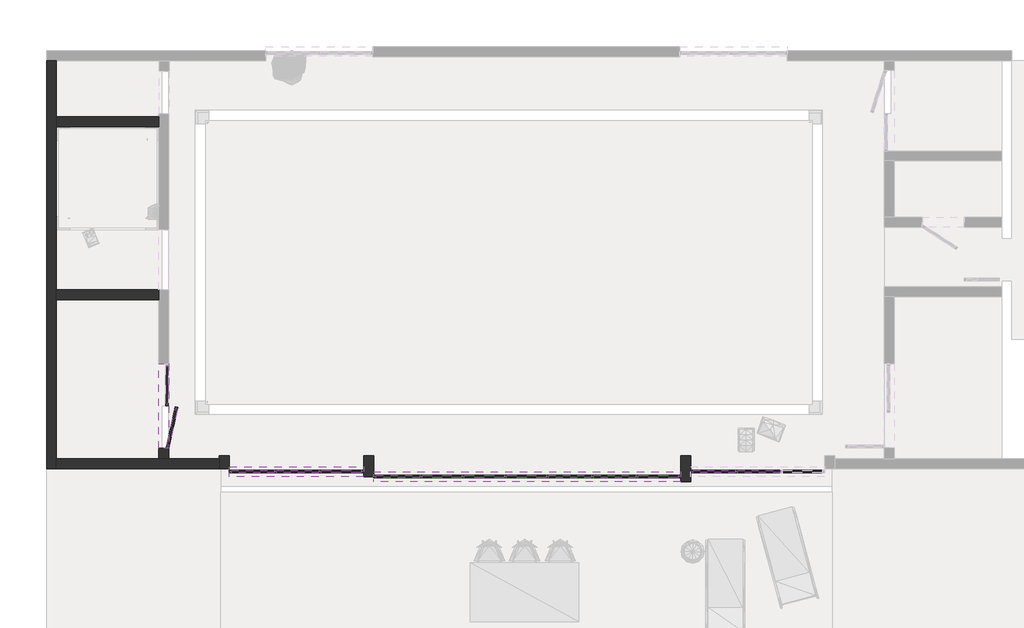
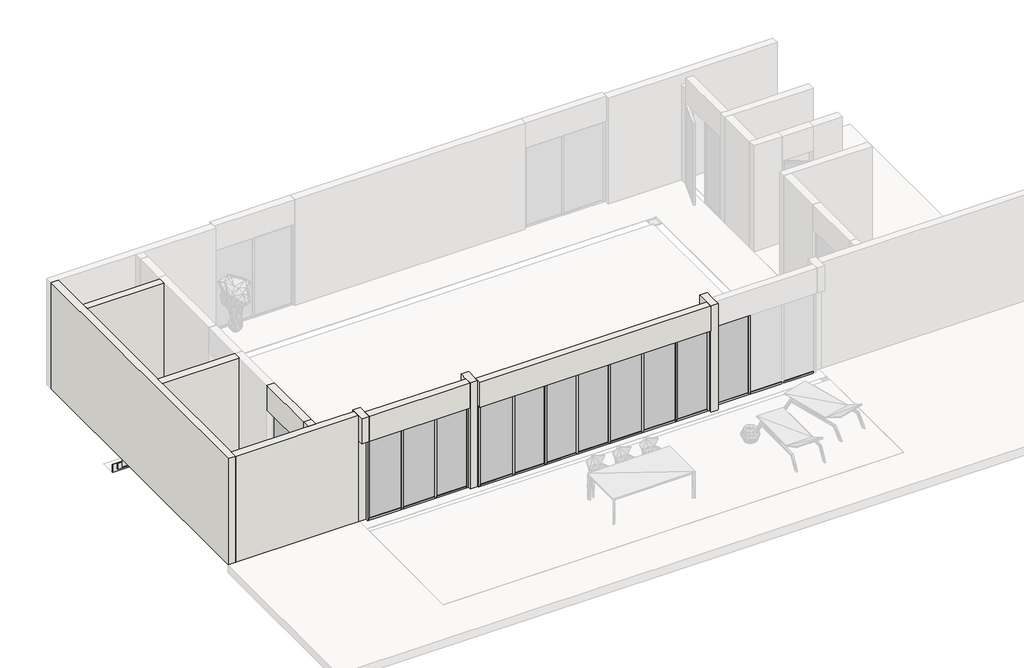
# One storey, part 1 of 3: 45 members, 23 walls, 13 plates.
"""IFC4 building model written with IfcOpenShell, lengths in millimetres."""

from ifc_helpers import new_model, si_unit, frame, origin, origin_with_axes, place, context, project, spatial, polyline, outline, extrude, faceted_brep, transform, mapped, element, save
from components import montante_rectangular_montante_cuadrado_50x50mm_acero_cc8d1400, montante_rectangular_montante_cuadrado_50x50mm_acero_b99420d8, montante_rectangular_montante_cuadrado_50x50mm_acero_83e1ad39, montante_rectangular_montante_cuadrado_50x50mm_acero_31f087f2, montante_rectangular_montante_cuadrado_50x50mm_acero_05cd54b4, montante_rectangular_montante_cuadrado_50x50mm_acero_ca4e556f, montante_rectangular_montante_cuadrado_50x50mm_acero_dcaf8623, montante_rectangular_montante_cuadrado_50x50mm_acero_85ed2a2e, montante_rectangular_montante_cuadrado_50x50mm_acero_ade78676, montante_rectangular_montante_cuadrado_50x50mm_acero_f08a09c5, montante_rectangular_montante_cuadrado_50x50mm_acero_9b62e82a, montante_rectangular_montante_cuadrado_50x50mm_acero_ee5e875f, panel_acristalado_panel_acristalado_1cm_47b5e9e2, panel_acristalado_panel_acristalado_1cm_8548f812, panel_acristalado_panel_acristalado_1cm_a9741e59, panel_acristalado_panel_acristalado_1cm_0ca00538, panel_acristalado_panel_acristalado_1cm_65917553

model = new_model("IFC4")

# Units and contexts
model_context = context("Model", 3, world=origin())
ifc_project = project(units=[si_unit("LENGTHUNIT", "METRE", prefix="MILLI")], contexts=[model_context])

# Site, building, storey
site = spatial("IfcSite", under=ifc_project)
building = spatial("IfcBuilding", under=site)
storey = spatial("IfcBuildingStorey", under=building, Name="1_NPlaya", Elevation=0.0)

# Members
placement = place(None, origin())
montante_rectangular_montante_cuadrado_50x50mm_acero_shape = montante_rectangular_montante_cuadrado_50x50mm_acero_cc8d1400(model_context)
element("IfcMember", 1, ObjectType="Montante rectangular : Montante cuadrado 50x50mm_Acero", at=placement, inside=storey, context=model_context, shape_type="MappedRepresentation", body=[
    mapped(montante_rectangular_montante_cuadrado_50x50mm_acero_shape, transform((467.0093267, 7449.7270241, 2300.0), x_axis=(0.0, 0.0, 1.0), y_axis=(-1.0, 0.0, 0.0), z_axis=(0.0, -1.0, 0.0))),
])
montante_rectangular_montante_cuadrado_50x50mm_acero_2_shape = montante_rectangular_montante_cuadrado_50x50mm_acero_b99420d8(model_context)
element("IfcMember", 2, ObjectType="Montante rectangular : Montante cuadrado 50x50mm_Acero", at=placement, inside=storey, context=model_context, shape_type="MappedRepresentation", body=[
    mapped(montante_rectangular_montante_cuadrado_50x50mm_acero_2_shape, transform((467.0093267, 7399.7270241, 0.0), x_axis=(0.0, -1.0, 0.0), y_axis=(-1.0, 0.0, 0.0), z_axis=(0.0, 0.0, -1.0))),
])
element("IfcMember", 3, ObjectType="Montante rectangular : Montante cuadrado 50x50mm_Acero", at=placement, inside=storey, context=model_context, shape_type="MappedRepresentation", body=[
    mapped(montante_rectangular_montante_cuadrado_50x50mm_acero_2_shape, transform((4444.0093272, 6053.7270206, 0.0), x_axis=(1.0, 0.0, 0.0), y_axis=(0.0, -1.0, 0.0), z_axis=(0.0, 0.0, -1.0))),
])
element("IfcMember", 4, ObjectType="Montante rectangular : Montante cuadrado 50x50mm_Acero", at=placement, inside=storey, context=model_context, shape_type="MappedRepresentation", body=[
    mapped(montante_rectangular_montante_cuadrado_50x50mm_acero_2_shape, transform((10820.5093267, 5953.7270206, 0.0), x_axis=(1.0, 0.0, 0.0), y_axis=(0.0, -1.0, 0.0), z_axis=(0.0, 0.0, -1.0))),
])
element("IfcMember", 5, ObjectType="Montante rectangular : Montante cuadrado 50x50mm_Acero", at=placement, inside=storey, context=model_context, shape_type="MappedRepresentation", body=[
    mapped(montante_rectangular_montante_cuadrado_50x50mm_acero_2_shape, transform((707.9682118, 7368.1978785, 0.0), x_axis=(0.2249510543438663, 0.9743700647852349, 0.0), y_axis=(0.9743700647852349, -0.2249510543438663, 0.0), z_axis=(0.0, 0.0, -1.0))),
])
montante_rectangular_montante_cuadrado_50x50mm_acero_3_shape = montante_rectangular_montante_cuadrado_50x50mm_acero_83e1ad39(model_context)
element("IfcMember", 6, ObjectType="Montante rectangular : Montante cuadrado 50x50mm_Acero", at=placement, inside=storey, context=model_context, shape_type="MappedRepresentation", body=[
    mapped(montante_rectangular_montante_cuadrado_50x50mm_acero_3_shape, transform((1744.0093272, 6053.7270206, 2300.0), x_axis=(-1.0, 0.0, 0.0), y_axis=(0.0, -1.0, 0.0), z_axis=(0.0, 0.0, 1.0))),
])
element("IfcMember", 7, ObjectType="Montante rectangular : Montante cuadrado 50x50mm_Acero", at=placement, inside=storey, context=model_context, shape_type="MappedRepresentation", body=[
    mapped(montante_rectangular_montante_cuadrado_50x50mm_acero_3_shape, transform((4644.0093272, 5953.7270206, 2300.0), x_axis=(-1.0, 0.0, 0.0), y_axis=(0.0, -1.0, 0.0), z_axis=(0.0, 0.0, 1.0))),
])
element("IfcMember", 8, ObjectType="Montante rectangular : Montante cuadrado 50x50mm_Acero", at=placement, inside=storey, context=model_context, shape_type="MappedRepresentation", body=[
    mapped(montante_rectangular_montante_cuadrado_50x50mm_acero_3_shape, transform((11020.5093267, 6053.7270206, 2300.0), x_axis=(-1.0, 0.0, 0.0), y_axis=(0.0, -1.0, 0.0), z_axis=(0.0, 0.0, 1.0))),
])
element("IfcMember", 9, ObjectType="Montante rectangular : Montante cuadrado 50x50mm_Acero", at=placement, inside=storey, context=model_context, shape_type="MappedRepresentation", body=[
    mapped(montante_rectangular_montante_cuadrado_50x50mm_acero_3_shape, transform((519.0093262, 6549.7270241, 2300.0), x_axis=(-0.2249510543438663, -0.9743700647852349, 0.0), y_axis=(0.9743700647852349, -0.2249510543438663, 0.0), z_axis=(0.0, 0.0, 1.0))),
])
montante_rectangular_montante_cuadrado_50x50mm_acero_4_shape = montante_rectangular_montante_cuadrado_50x50mm_acero_31f087f2(model_context)
element("IfcMember", 10, ObjectType="Montante rectangular : Montante cuadrado 50x50mm_Acero", at=placement, inside=storey, context=model_context, shape_type="MappedRepresentation", body=[
    mapped(montante_rectangular_montante_cuadrado_50x50mm_acero_4_shape, transform((1794.0093272, 6053.7270206, 0.0), x_axis=(0.0, 0.0, -1.0), y_axis=(0.0, -1.0, 0.0), z_axis=(-1.0, 0.0, 0.0))),
])
element("IfcMember", 11, ObjectType="Montante rectangular : Montante cuadrado 50x50mm_Acero", at=placement, inside=storey, context=model_context, shape_type="MappedRepresentation", body=[
    mapped(montante_rectangular_montante_cuadrado_50x50mm_acero_4_shape, transform((11070.5093267, 6053.7270206, 0.0), x_axis=(0.0, 0.0, -1.0), y_axis=(0.0, -1.0, 0.0), z_axis=(-1.0, 0.0, 0.0))),
])
element("IfcMember", 12, ObjectType="Montante rectangular : Montante cuadrado 50x50mm_Acero", at=placement, inside=storey, context=model_context, shape_type="MappedRepresentation", body=[
    mapped(montante_rectangular_montante_cuadrado_50x50mm_acero_4_shape, transform((11970.5093267, 6053.7270206, 0.0), x_axis=(0.0, 0.0, -1.0), y_axis=(0.0, -1.0, 0.0), z_axis=(-1.0, 0.0, 0.0))),
])
element("IfcMember", 13, ObjectType="Montante rectangular : Montante cuadrado 50x50mm_Acero", at=placement, inside=storey, context=model_context, shape_type="MappedRepresentation", body=[
    mapped(montante_rectangular_montante_cuadrado_50x50mm_acero_4_shape, transform((2694.0093272, 6053.7270206, 0.0), x_axis=(0.0, 0.0, -1.0), y_axis=(0.0, -1.0, 0.0), z_axis=(-1.0, 0.0, 0.0))),
])
element("IfcMember", 14, ObjectType="Montante rectangular : Montante cuadrado 50x50mm_Acero", at=placement, inside=storey, context=model_context, shape_type="MappedRepresentation", body=[
    mapped(montante_rectangular_montante_cuadrado_50x50mm_acero_4_shape, transform((9070.5093267, 5953.7270206, 0.0), x_axis=(0.0, 0.0, -1.0), y_axis=(0.0, -1.0, 0.0), z_axis=(-1.0, 0.0, 0.0))),
])
element("IfcMember", 15, ObjectType="Montante rectangular : Montante cuadrado 50x50mm_Acero", at=placement, inside=storey, context=model_context, shape_type="MappedRepresentation", body=[
    mapped(montante_rectangular_montante_cuadrado_50x50mm_acero_4_shape, transform((8170.5093267, 5953.7270206, 0.0), x_axis=(0.0, 0.0, -1.0), y_axis=(0.0, -1.0, 0.0), z_axis=(-1.0, 0.0, 0.0))),
])
montante_rectangular_montante_cuadrado_50x50mm_acero_5_shape = montante_rectangular_montante_cuadrado_50x50mm_acero_05cd54b4(model_context)
element("IfcMember", 16, ObjectType="Montante rectangular : Montante cuadrado 50x50mm_Acero", at=placement, inside=storey, context=model_context, shape_type="MappedRepresentation", body=[
    mapped(montante_rectangular_montante_cuadrado_50x50mm_acero_5_shape, transform((4394.0093272, 6053.7270206, 2300.0), x_axis=(0.0, 0.0, 1.0), y_axis=(0.0, -1.0, 0.0), z_axis=(1.0, 0.0, 0.0))),
])
element("IfcMember", 17, ObjectType="Montante rectangular : Montante cuadrado 50x50mm_Acero", at=placement, inside=storey, context=model_context, shape_type="MappedRepresentation", body=[
    mapped(montante_rectangular_montante_cuadrado_50x50mm_acero_5_shape, transform((10770.5093267, 5953.7270206, 2300.0), x_axis=(0.0, 0.0, 1.0), y_axis=(0.0, -1.0, 0.0), z_axis=(1.0, 0.0, 0.0))),
])
element("IfcMember", 18, ObjectType="Montante rectangular : Montante cuadrado 50x50mm_Acero", at=placement, inside=storey, context=model_context, shape_type="MappedRepresentation", body=[
    mapped(montante_rectangular_montante_cuadrado_50x50mm_acero_5_shape, transform((8120.5093267, 5953.7270206, 2300.0), x_axis=(0.0, 0.0, 1.0), y_axis=(0.0, -1.0, 0.0), z_axis=(1.0, 0.0, 0.0))),
])
element("IfcMember", 19, ObjectType="Montante rectangular : Montante cuadrado 50x50mm_Acero", at=placement, inside=storey, context=model_context, shape_type="MappedRepresentation", body=[
    mapped(montante_rectangular_montante_cuadrado_50x50mm_acero_5_shape, transform((7270.5093267, 5953.7270206, 2300.0), x_axis=(0.0, 0.0, 1.0), y_axis=(0.0, -1.0, 0.0), z_axis=(1.0, 0.0, 0.0))),
])
element("IfcMember", 20, ObjectType="Montante rectangular : Montante cuadrado 50x50mm_Acero", at=placement, inside=storey, context=model_context, shape_type="MappedRepresentation", body=[
    mapped(montante_rectangular_montante_cuadrado_50x50mm_acero_5_shape, transform((6420.5093267, 5953.7270206, 2300.0), x_axis=(0.0, 0.0, 1.0), y_axis=(0.0, -1.0, 0.0), z_axis=(1.0, 0.0, 0.0))),
])
montante_rectangular_montante_cuadrado_50x50mm_acero_6_shape = montante_rectangular_montante_cuadrado_50x50mm_acero_ca4e556f(model_context)
element("IfcMember", 21, ObjectType="Montante rectangular : Montante cuadrado 50x50mm_Acero", at=placement, inside=storey, context=model_context, shape_type="MappedRepresentation", body=[
    mapped(montante_rectangular_montante_cuadrado_50x50mm_acero_6_shape, transform((12820.5093267, 6053.7270206, 2300.0), x_axis=(0.0, 0.0, 1.0), y_axis=(0.0, -1.0, 0.0), z_axis=(1.0, 0.0, 0.0))),
])
element("IfcMember", 22, ObjectType="Montante rectangular : Montante cuadrado 50x50mm_Acero", at=placement, inside=storey, context=model_context, shape_type="MappedRepresentation", body=[
    mapped(montante_rectangular_montante_cuadrado_50x50mm_acero_6_shape, transform((11920.5093267, 6053.7270206, 2300.0), x_axis=(0.0, 0.0, 1.0), y_axis=(0.0, -1.0, 0.0), z_axis=(1.0, 0.0, 0.0))),
])
element("IfcMember", 23, ObjectType="Montante rectangular : Montante cuadrado 50x50mm_Acero", at=placement, inside=storey, context=model_context, shape_type="MappedRepresentation", body=[
    mapped(montante_rectangular_montante_cuadrado_50x50mm_acero_6_shape, transform((3544.0093272, 6053.7270206, 2300.0), x_axis=(0.0, 0.0, 1.0), y_axis=(0.0, -1.0, 0.0), z_axis=(1.0, 0.0, 0.0))),
])
element("IfcMember", 24, ObjectType="Montante rectangular : Montante cuadrado 50x50mm_Acero", at=placement, inside=storey, context=model_context, shape_type="MappedRepresentation", body=[
    mapped(montante_rectangular_montante_cuadrado_50x50mm_acero_6_shape, transform((2644.0093272, 6053.7270206, 2300.0), x_axis=(0.0, 0.0, 1.0), y_axis=(0.0, -1.0, 0.0), z_axis=(1.0, 0.0, 0.0))),
])
element("IfcMember", 25, ObjectType="Montante rectangular : Montante cuadrado 50x50mm_Acero", at=placement, inside=storey, context=model_context, shape_type="MappedRepresentation", body=[
    mapped(montante_rectangular_montante_cuadrado_50x50mm_acero_6_shape, transform((9920.5093267, 5953.7270206, 2300.0), x_axis=(0.0, 0.0, 1.0), y_axis=(0.0, -1.0, 0.0), z_axis=(1.0, 0.0, 0.0))),
])
element("IfcMember", 26, ObjectType="Montante rectangular : Montante cuadrado 50x50mm_Acero", at=placement, inside=storey, context=model_context, shape_type="MappedRepresentation", body=[
    mapped(montante_rectangular_montante_cuadrado_50x50mm_acero_6_shape, transform((9020.5093267, 5953.7270206, 2300.0), x_axis=(0.0, 0.0, 1.0), y_axis=(0.0, -1.0, 0.0), z_axis=(1.0, 0.0, 0.0))),
])
montante_rectangular_montante_cuadrado_50x50mm_acero_7_shape = montante_rectangular_montante_cuadrado_50x50mm_acero_dcaf8623(model_context)
element("IfcMember", 27, ObjectType="Montante rectangular : Montante cuadrado 50x50mm_Acero", at=placement, inside=storey, context=model_context, shape_type="MappedRepresentation", body=[
    mapped(montante_rectangular_montante_cuadrado_50x50mm_acero_7_shape, transform((12870.5093267, 6053.7270206, 0.0), x_axis=(0.0, 0.0, -1.0), y_axis=(0.0, -1.0, 0.0), z_axis=(-1.0, 0.0, 0.0))),
])
element("IfcMember", 28, ObjectType="Montante rectangular : Montante cuadrado 50x50mm_Acero", at=placement, inside=storey, context=model_context, shape_type="MappedRepresentation", body=[
    mapped(montante_rectangular_montante_cuadrado_50x50mm_acero_7_shape, transform((3594.0093272, 6053.7270206, 0.0), x_axis=(0.0, 0.0, -1.0), y_axis=(0.0, -1.0, 0.0), z_axis=(-1.0, 0.0, 0.0))),
])
element("IfcMember", 29, ObjectType="Montante rectangular : Montante cuadrado 50x50mm_Acero", at=placement, inside=storey, context=model_context, shape_type="MappedRepresentation", body=[
    mapped(montante_rectangular_montante_cuadrado_50x50mm_acero_7_shape, transform((9970.5093267, 5953.7270206, 0.0), x_axis=(0.0, 0.0, -1.0), y_axis=(0.0, -1.0, 0.0), z_axis=(-1.0, 0.0, 0.0))),
])
element("IfcMember", 30, ObjectType="Montante rectangular : Montante cuadrado 50x50mm_Acero", at=placement, inside=storey, context=model_context, shape_type="MappedRepresentation", body=[
    mapped(montante_rectangular_montante_cuadrado_50x50mm_acero_7_shape, transform((7320.5093267, 5953.7270206, 0.0), x_axis=(0.0, 0.0, -1.0), y_axis=(0.0, -1.0, 0.0), z_axis=(-1.0, 0.0, 0.0))),
])
element("IfcMember", 31, ObjectType="Montante rectangular : Montante cuadrado 50x50mm_Acero", at=placement, inside=storey, context=model_context, shape_type="MappedRepresentation", body=[
    mapped(montante_rectangular_montante_cuadrado_50x50mm_acero_7_shape, transform((6470.5093267, 5953.7270206, 0.0), x_axis=(0.0, 0.0, -1.0), y_axis=(0.0, -1.0, 0.0), z_axis=(-1.0, 0.0, 0.0))),
])
element("IfcMember", 32, ObjectType="Montante rectangular : Montante cuadrado 50x50mm_Acero", at=placement, inside=storey, context=model_context, shape_type="MappedRepresentation", body=[
    mapped(montante_rectangular_montante_cuadrado_50x50mm_acero_7_shape, transform((5620.5093267, 5953.7270206, 0.0), x_axis=(0.0, 0.0, -1.0), y_axis=(0.0, -1.0, 0.0), z_axis=(-1.0, 0.0, 0.0))),
])
montante_rectangular_montante_cuadrado_50x50mm_acero_8_shape = montante_rectangular_montante_cuadrado_50x50mm_acero_85ed2a2e(model_context)
element("IfcMember", 33, ObjectType="Montante rectangular : Montante cuadrado 50x50mm_Acero", at=placement, inside=storey, context=model_context, shape_type="MappedRepresentation", body=[
    mapped(montante_rectangular_montante_cuadrado_50x50mm_acero_8_shape, transform((4694.0093272, 5953.7270206, 0.0), x_axis=(0.0, 0.0, -1.0), y_axis=(0.0, -1.0, 0.0), z_axis=(-1.0, 0.0, 0.0))),
])
montante_rectangular_montante_cuadrado_50x50mm_acero_9_shape = montante_rectangular_montante_cuadrado_50x50mm_acero_ade78676(model_context)
element("IfcMember", 34, ObjectType="Montante rectangular : Montante cuadrado 50x50mm_Acero", at=placement, inside=storey, context=model_context, shape_type="MappedRepresentation", body=[
    mapped(montante_rectangular_montante_cuadrado_50x50mm_acero_9_shape, transform((5570.5093267, 5953.7270206, 2300.0), x_axis=(0.0, 0.0, 1.0), y_axis=(0.0, -1.0, 0.0), z_axis=(1.0, 0.0, 0.0))),
])
montante_rectangular_montante_cuadrado_50x50mm_acero_10_shape = montante_rectangular_montante_cuadrado_50x50mm_acero_f08a09c5(model_context)
element("IfcMember", 35, ObjectType="Montante rectangular : Montante cuadrado 50x50mm_Acero", at=placement, inside=storey, context=model_context, shape_type="MappedRepresentation", body=[
    mapped(montante_rectangular_montante_cuadrado_50x50mm_acero_10_shape, transform((696.7206591, 7319.4793753, 2300.0), x_axis=(0.0, 0.0, 1.0), y_axis=(0.974370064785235, -0.22495105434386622, 0.0), z_axis=(0.22495105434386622, 0.974370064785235, 0.0))),
])
montante_rectangular_montante_cuadrado_50x50mm_acero_11_shape = montante_rectangular_montante_cuadrado_50x50mm_acero_9b62e82a(model_context)
element("IfcMember", 36, ObjectType="Montante rectangular : Montante cuadrado 50x50mm_Acero", at=placement, inside=storey, context=model_context, shape_type="MappedRepresentation", body=[
    mapped(montante_rectangular_montante_cuadrado_50x50mm_acero_11_shape, transform((530.2568789, 6598.4455273, 0.0), x_axis=(0.0, 0.0, -1.0), y_axis=(0.974370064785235, -0.22495105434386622, 0.0), z_axis=(-0.22495105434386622, -0.974370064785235, 0.0))),
])
montante_rectangular_montante_cuadrado_50x50mm_acero_12_shape = montante_rectangular_montante_cuadrado_50x50mm_acero_ee5e875f(model_context)
element("IfcMember", 37, ObjectType="Montante rectangular : Montante cuadrado 50x50mm_Acero", at=placement, inside=storey, context=model_context, shape_type="MappedRepresentation", body=[
    mapped(montante_rectangular_montante_cuadrado_50x50mm_acero_12_shape, transform((11920.5093267, 6053.7270206, 0.0), x_axis=(1.0, 0.0, 0.0), y_axis=(0.0, -1.0, 0.0), z_axis=(0.0, 0.0, -1.0))),
])
element("IfcMember", 38, ObjectType="Montante rectangular : Montante cuadrado 50x50mm_Acero", at=placement, inside=storey, context=model_context, shape_type="MappedRepresentation", body=[
    mapped(montante_rectangular_montante_cuadrado_50x50mm_acero_12_shape, transform((9920.5093267, 5953.7270206, 0.0), x_axis=(1.0, 0.0, 0.0), y_axis=(0.0, -1.0, 0.0), z_axis=(0.0, 0.0, -1.0))),
])
element("IfcMember", 39, ObjectType="Montante rectangular : Montante cuadrado 50x50mm_Acero", at=placement, inside=storey, context=model_context, shape_type="MappedRepresentation", body=[
    mapped(montante_rectangular_montante_cuadrado_50x50mm_acero_12_shape, transform((9020.5093267, 5953.7270206, 0.0), x_axis=(1.0, 0.0, 0.0), y_axis=(0.0, -1.0, 0.0), z_axis=(0.0, 0.0, -1.0))),
])
element("IfcMember", 40, ObjectType="Montante rectangular : Montante cuadrado 50x50mm_Acero", at=placement, inside=storey, context=model_context, shape_type="MappedRepresentation", body=[
    mapped(montante_rectangular_montante_cuadrado_50x50mm_acero_12_shape, transform((8120.5093267, 5953.7270206, 0.0), x_axis=(1.0, 0.0, 0.0), y_axis=(0.0, -1.0, 0.0), z_axis=(0.0, 0.0, -1.0))),
])
element("IfcMember", 41, ObjectType="Montante rectangular : Montante cuadrado 50x50mm_Acero", at=placement, inside=storey, context=model_context, shape_type="MappedRepresentation", body=[
    mapped(montante_rectangular_montante_cuadrado_50x50mm_acero_12_shape, transform((7270.5093267, 5953.7270206, 0.0), x_axis=(1.0, 0.0, 0.0), y_axis=(0.0, -1.0, 0.0), z_axis=(0.0, 0.0, -1.0))),
])
element("IfcMember", 42, ObjectType="Montante rectangular : Montante cuadrado 50x50mm_Acero", at=placement, inside=storey, context=model_context, shape_type="MappedRepresentation", body=[
    mapped(montante_rectangular_montante_cuadrado_50x50mm_acero_12_shape, transform((6420.5093267, 5953.7270206, 0.0), x_axis=(1.0, 0.0, 0.0), y_axis=(0.0, -1.0, 0.0), z_axis=(0.0, 0.0, -1.0))),
])
element("IfcMember", 43, ObjectType="Montante rectangular : Montante cuadrado 50x50mm_Acero", at=placement, inside=storey, context=model_context, shape_type="MappedRepresentation", body=[
    mapped(montante_rectangular_montante_cuadrado_50x50mm_acero_12_shape, transform((5570.5093267, 5953.7270206, 0.0), x_axis=(1.0, 0.0, 0.0), y_axis=(0.0, -1.0, 0.0), z_axis=(0.0, 0.0, -1.0))),
])
element("IfcMember", 44, ObjectType="Montante rectangular : Montante cuadrado 50x50mm_Acero", at=placement, inside=storey, context=model_context, shape_type="MappedRepresentation", body=[
    mapped(montante_rectangular_montante_cuadrado_50x50mm_acero_12_shape, transform((3544.0093272, 6053.7270206, 0.0), x_axis=(1.0, 0.0, 0.0), y_axis=(0.0, -1.0, 0.0), z_axis=(0.0, 0.0, -1.0))),
])
element("IfcMember", 45, ObjectType="Montante rectangular : Montante cuadrado 50x50mm_Acero", at=placement, inside=storey, context=model_context, shape_type="MappedRepresentation", body=[
    mapped(montante_rectangular_montante_cuadrado_50x50mm_acero_12_shape, transform((2644.0093272, 6053.7270206, 0.0), x_axis=(1.0, 0.0, 0.0), y_axis=(0.0, -1.0, 0.0), z_axis=(0.0, 0.0, -1.0))),
])

# Plates
panel_acristalado_panel_acristalado_1cm_shape = panel_acristalado_panel_acristalado_1cm_47b5e9e2(model_context)
element("IfcPlate", 46, ObjectType="Panel acristalado : Panel acristalado 1cm", at=placement, inside=storey, context=model_context, shape_type="MappedRepresentation", body=[
    mapped(panel_acristalado_panel_acristalado_1cm_shape, transform((467.0093267, 7824.7270223, 50.0), x_axis=(0.0, -1.0, 0.0), y_axis=(1.0, 0.0, 0.0), z_axis=(0.0, 0.0, 1.0))),
])
panel_acristalado_panel_acristalado_1cm_2_shape = panel_acristalado_panel_acristalado_1cm_8548f812(model_context)
element("IfcPlate", 47, ObjectType="Panel acristalado : Panel acristalado 1cm", at=placement, inside=storey, context=model_context, shape_type="MappedRepresentation", body=[
    mapped(panel_acristalado_panel_acristalado_1cm_2_shape, transform((2219.0093272, 6053.7270206, 50.0), x_axis=(1.0, 0.0, 0.0), y_axis=(0.0, 1.0, 0.0), z_axis=(0.0, 0.0, 1.0))),
])
element("IfcPlate", 48, ObjectType="Panel acristalado : Panel acristalado 1cm", at=placement, inside=storey, context=model_context, shape_type="MappedRepresentation", body=[
    mapped(panel_acristalado_panel_acristalado_1cm_2_shape, transform((11495.5093267, 6053.7270206, 50.0), x_axis=(1.0, 0.0, 0.0), y_axis=(0.0, 1.0, 0.0), z_axis=(0.0, 0.0, 1.0))),
])
element("IfcPlate", 49, ObjectType="Panel acristalado : Panel acristalado 1cm", at=placement, inside=storey, context=model_context, shape_type="MappedRepresentation", body=[
    mapped(panel_acristalado_panel_acristalado_1cm_2_shape, transform((3119.0093272, 6053.7270206, 50.0), x_axis=(1.0, 0.0, 0.0), y_axis=(0.0, 1.0, 0.0), z_axis=(0.0, 0.0, 1.0))),
])
element("IfcPlate", 50, ObjectType="Panel acristalado : Panel acristalado 1cm", at=placement, inside=storey, context=model_context, shape_type="MappedRepresentation", body=[
    mapped(panel_acristalado_panel_acristalado_1cm_2_shape, transform((9495.5093267, 5953.7270206, 50.0), x_axis=(1.0, 0.0, 0.0), y_axis=(0.0, 1.0, 0.0), z_axis=(0.0, 0.0, 1.0))),
])
element("IfcPlate", 51, ObjectType="Panel acristalado : Panel acristalado 1cm", at=placement, inside=storey, context=model_context, shape_type="MappedRepresentation", body=[
    mapped(panel_acristalado_panel_acristalado_1cm_2_shape, transform((8595.5093267, 5953.7270206, 50.0), x_axis=(1.0, 0.0, 0.0), y_axis=(0.0, 1.0, 0.0), z_axis=(0.0, 0.0, 1.0))),
])
panel_acristalado_panel_acristalado_1cm_3_shape = panel_acristalado_panel_acristalado_1cm_a9741e59(model_context)
element("IfcPlate", 52, ObjectType="Panel acristalado : Panel acristalado 1cm", at=placement, inside=storey, context=model_context, shape_type="MappedRepresentation", body=[
    mapped(panel_acristalado_panel_acristalado_1cm_3_shape, transform((5132.2593269, 5953.7270206, 50.0), x_axis=(1.0, 0.0, 0.0), y_axis=(0.0, 1.0, 0.0), z_axis=(0.0, 0.0, 1.0))),
])
panel_acristalado_panel_acristalado_1cm_4_shape = panel_acristalado_panel_acristalado_1cm_0ca00538(model_context)
element("IfcPlate", 53, ObjectType="Panel acristalado : Panel acristalado 1cm", at=placement, inside=storey, context=model_context, shape_type="MappedRepresentation", body=[
    mapped(panel_acristalado_panel_acristalado_1cm_4_shape, transform((3994.0093272, 6053.7270206, 50.0), x_axis=(1.0, 0.0, 0.0), y_axis=(0.0, 1.0, 0.0), z_axis=(0.0, 0.0, 1.0))),
])
element("IfcPlate", 54, ObjectType="Panel acristalado : Panel acristalado 1cm", at=placement, inside=storey, context=model_context, shape_type="MappedRepresentation", body=[
    mapped(panel_acristalado_panel_acristalado_1cm_4_shape, transform((10370.5093267, 5953.7270206, 50.0), x_axis=(1.0, 0.0, 0.0), y_axis=(0.0, 1.0, 0.0), z_axis=(0.0, 0.0, 1.0))),
])
element("IfcPlate", 55, ObjectType="Panel acristalado : Panel acristalado 1cm", at=placement, inside=storey, context=model_context, shape_type="MappedRepresentation", body=[
    mapped(panel_acristalado_panel_acristalado_1cm_4_shape, transform((7720.5093267, 5953.7270206, 50.0), x_axis=(1.0, 0.0, 0.0), y_axis=(0.0, 1.0, 0.0), z_axis=(0.0, 0.0, 1.0))),
])
element("IfcPlate", 56, ObjectType="Panel acristalado : Panel acristalado 1cm", at=placement, inside=storey, context=model_context, shape_type="MappedRepresentation", body=[
    mapped(panel_acristalado_panel_acristalado_1cm_4_shape, transform((6870.5093267, 5953.7270206, 50.0), x_axis=(1.0, 0.0, 0.0), y_axis=(0.0, 1.0, 0.0), z_axis=(0.0, 0.0, 1.0))),
])
element("IfcPlate", 57, ObjectType="Panel acristalado : Panel acristalado 1cm", at=placement, inside=storey, context=model_context, shape_type="MappedRepresentation", body=[
    mapped(panel_acristalado_panel_acristalado_1cm_4_shape, transform((6020.5093267, 5953.7270206, 50.0), x_axis=(1.0, 0.0, 0.0), y_axis=(0.0, 1.0, 0.0), z_axis=(0.0, 0.0, 1.0))),
])
panel_acristalado_panel_acristalado_1cm_5_shape = panel_acristalado_panel_acristalado_1cm_65917553(model_context)
element("IfcPlate", 58, ObjectType="Panel acristalado : Panel acristalado 1cm", at=placement, inside=storey, context=model_context, shape_type="MappedRepresentation", body=[
    mapped(panel_acristalado_panel_acristalado_1cm_5_shape, transform((613.488769, 6958.9624513, 50.0), x_axis=(0.2249510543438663, 0.9743700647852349, 0.0), y_axis=(-0.9743700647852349, 0.2249510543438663, 0.0), z_axis=(0.0, 0.0, 1.0))),
])

# Walls
element("IfcWall", 59, ObjectType="Pieza 316_Patrón 1/3_Tresor_Java_Anti-Slip", at=placement, inside=storey, context=model_context, shape_type="Brep", body=[
    faceted_brep([(6279.5093267, 7513.7270206, -873.9413919), (6279.5093267, 8424.7270206, -873.9413919), (6279.5093267, 8433.7270206, -873.9413919), (6279.5093267, 8433.7270206, -842.4462632), (6279.5093267, 8424.7270206, -842.4462632), (6279.5093267, 8393.6534231, -842.4462632), (6279.5093267, 8393.6534231, -685.9413919), (6279.5093267, 7513.7270206, -685.9413919), (6270.5093267, 7513.7270206, -873.9413919), (6270.5093267, 7513.7270206, -685.9413919), (6270.5093267, 8393.6534231, -685.9413919), (6270.5093267, 8393.6534231, -842.4462632), (6270.5093267, 8433.7270206, -842.4462632), (6270.5093267, 8433.7270206, -873.9413919)], [[[0, 1, 2, 3, 4, 5, 6, 7]], [[8, 9, 10, 11, 12, 13]], [[3, 2, 13, 12]], [[0, 7, 9, 8]], [[2, 1, 0, 8, 13]], [[7, 6, 10, 9]], [[5, 4, 3, 12, 11]], [[6, 5, 11, 10]]]),
])
element("IfcWall", 60, ObjectType="Pieza 316_Patrón 1/3_Tresor_Java_Anti-Slip", at=placement, inside=storey, context=model_context, shape_type="SweptSolid", body=[
    extrude(outline(polyline([(8424.7270206, -873.9413919), (7513.7270206, -873.9413919), (7513.7270206, -685.9413919), (8393.7186841, -685.9413919), (8393.7186841, -841.1962632), (8424.7270206, -841.1962632), (8424.7270206, -873.9413919)])), frame((8461.5093267, 0.0, 0.0), z_axis=(1.0, 0.0, 0.0), x_axis=(0.0, 1.0, 0.0)), (0.0, 0.0, 1.0), 9.0),
])
element("IfcWall", 61, ObjectType="Pieza 316_Patrón 1/3_Tresor_Java_Anti-Slip", at=placement, inside=storey, context=model_context, shape_type="Brep", body=[
    faceted_brep([(6579.5093267, 7513.7270206, -648.9413919), (6579.5093267, 8124.7270206, -648.9413919), (6579.5093267, 8133.7270206, -648.9413919), (6579.5093267, 8133.7270206, -617.4462632), (6579.5093267, 8124.7270206, -617.4462632), (6579.5093267, 8093.6534231, -617.4462632), (6579.5093267, 8093.6534231, -461.9413919), (6579.5093267, 7513.7270206, -461.9413919), (6570.5093267, 7513.7270206, -648.9413919), (6570.5093267, 7513.7270206, -461.9413919), (6570.5093267, 8093.6534231, -461.9413919), (6570.5093267, 8093.6534231, -617.4462632), (6570.5093267, 8133.7270206, -617.4462632), (6570.5093267, 8133.7270206, -648.9413919)], [[[0, 1, 2, 3, 4, 5, 6, 7]], [[8, 9, 10, 11, 12, 13]], [[3, 2, 13, 12]], [[0, 7, 9, 8]], [[2, 1, 0, 8, 13]], [[7, 6, 10, 9]], [[5, 4, 3, 12, 11]], [[6, 5, 11, 10]]]),
])
element("IfcWall", 62, ObjectType="Pieza 316_Patrón 1/3_Tresor_Java_Anti-Slip", at=placement, inside=storey, context=model_context, shape_type="SweptSolid", body=[
    extrude(outline(polyline([(8124.7270206, -648.9413919), (7513.7270206, -648.9413919), (7513.7270206, -460.9413919), (8094.3414024, -460.9413919), (8094.3414024, -616.1962632), (8124.7270206, -616.1962632), (8124.7270206, -648.9413919)])), frame((8161.5093267, 0.0, 0.0), z_axis=(1.0, 0.0, 0.0), x_axis=(0.0, 1.0, 0.0)), (0.0, 0.0, 1.0), 9.0),
])
element("IfcWall", 63, ObjectType="Pieza 316_Patrón 1/3_Tresor_Java_Anti-Slip", at=placement, inside=storey, context=model_context, shape_type="Brep", body=[
    faceted_brep([(6879.5093267, 7513.7270206, -424.45068), (6879.5093267, 7830.7270206, -424.45068), (6879.5093267, 7830.7270206, -423.9413919), (6879.5093267, 7830.7270206, -394.9462632), (6879.5093267, 7821.7270206, -394.9462632), (6879.5093267, 7790.6534231, -394.9462632), (6879.5093267, 7790.6534231, -236.4778222), (6879.5093267, 7513.7270206, -236.4778222), (6879.5093267, 7513.7270206, -313.9413919), (6870.5093267, 7513.7270206, -424.45068), (6870.5093267, 7513.7270206, -236.4778222), (6870.5093267, 7790.6534231, -236.4778222), (6870.5093267, 7790.6534231, -394.9462632), (6870.5093267, 7830.7270206, -394.9462632), (6870.5093267, 7830.7270206, -424.45068)], [[[0, 1, 2, 3, 4, 5, 6, 7, 8]], [[9, 10, 11, 12, 13, 14]], [[3, 2, 1, 14, 13]], [[0, 8, 7, 10, 9]], [[1, 0, 9, 14]], [[7, 6, 11, 10]], [[5, 4, 3, 13, 12]], [[6, 5, 12, 11]]]),
])
element("IfcWall", 64, ObjectType="Pieza 316_Patrón 1/3_Tresor_Java_Anti-Slip", at=placement, inside=storey, context=model_context, shape_type="Brep", body=[
    faceted_brep([(6879.5093267, 7821.7270206, -423.9413919), (7861.5093267, 7821.7270206, -423.9413919), (7870.5093267, 7821.7270206, -423.9413919), (7870.5093267, 7821.7270206, -393.6962632), (7861.5093267, 7821.7270206, -393.6962632), (7830.4982291, 7821.7270206, -393.6962632), (7830.4982291, 7821.7270206, -236.9413919), (6910.5825295, 7821.7270206, -236.9413919), (6910.5825295, 7821.7270206, -394.9462632), (6879.5093267, 7821.7270206, -394.9462632), (6879.5093267, 7830.7270206, -423.9413919), (6879.5093267, 7830.7270206, -394.9462632), (6910.5825295, 7830.7270206, -394.9462632), (6910.5825295, 7830.7270206, -236.9413919), (7830.4982291, 7830.7270206, -236.9413919), (7830.4982291, 7830.7270206, -393.6962632), (7870.5093267, 7830.7270206, -393.6962632), (7870.5093267, 7830.7270206, -423.9413919)], [[[0, 1, 2, 3, 4, 5, 6, 7, 8, 9]], [[10, 11, 12, 13, 14, 15, 16, 17]], [[0, 9, 11, 10]], [[3, 2, 17, 16]], [[2, 1, 0, 10, 17]], [[7, 6, 14, 13]], [[5, 4, 3, 16, 15]], [[6, 5, 15, 14]], [[8, 7, 13, 12]], [[9, 8, 12, 11]]]),
])
element("IfcWall", 65, ObjectType="Pieza 316_Patrón 1/3_Tresor_Java_Anti-Slip", at=placement, inside=storey, context=model_context, shape_type="Brep", body=[
    faceted_brep([(7861.5093267, 7821.7270206, -423.9413919), (7861.5093267, 7513.7270206, -423.9413919), (7861.5093267, 7513.7270206, -309.0), (7861.5093267, 7513.7270206, -236.9413919), (7861.5093267, 7790.7164024, -236.9413919), (7861.5093267, 7790.7164024, -393.6962632), (7861.5093267, 7821.7270206, -393.6962632), (7870.5093267, 7821.7270206, -423.9413919), (7870.5093267, 7821.7270206, -393.6962632), (7870.5093267, 7790.7164024, -393.6962632), (7870.5093267, 7790.7164024, -236.9413919), (7870.5093267, 7513.7270206, -236.9413919), (7870.5093267, 7513.7270206, -423.9413919)], [[[0, 1, 2, 3, 4, 5, 6]], [[7, 8, 9, 10, 11, 12]], [[0, 6, 8, 7]], [[3, 2, 1, 12, 11]], [[1, 0, 7, 12]], [[4, 3, 11, 10]], [[5, 4, 10, 9]], [[6, 5, 9, 8]]]),
])
element("IfcWall", 66, ObjectType="GENÉRICO_MURO BASE 20 cm", at=placement, inside=storey, context=model_context, shape_type="Brep", body=[
    faceted_brep([(-1934.4906752, 14343.7270206, 0.0), (-1934.4906752, 6133.7270206, 0.0), (-1934.4906752, 6133.7270206, 3000.0), (-1934.4906752, 14343.7270206, 3000.0), (-1734.4906752, 14343.7270206, 0.0), (-1734.4906752, 14343.7270206, 3000.0), (-1734.4906752, 13212.2270206, 3000.0), (-1734.4906752, 13012.2270206, 3000.0), (-1734.4906752, 9735.7270206, 3000.0), (-1734.4906752, 9535.7270206, 3000.0), (-1734.4906752, 6333.7270206, 3000.0), (-1734.4906752, 6133.7270206, 3000.0), (-1734.4906752, 6133.7270206, 0.0), (-1734.4906752, 6333.7270206, 0.0), (-1734.4906752, 9535.7270206, 0.0), (-1734.4906752, 9735.7270206, 0.0), (-1734.4906752, 13012.2270206, 0.0), (-1734.4906752, 13212.2270206, 0.0)], [[[0, 1, 2, 3]], [[4, 5, 6, 7, 8, 9, 10, 11, 12, 13, 14, 15, 16, 17]], [[1, 0, 4, 17, 16, 15, 14, 13, 12]], [[3, 2, 11, 10, 9, 8, 7, 6, 5]], [[0, 3, 5, 4]], [[2, 1, 12, 11]]]),
])
element("IfcWall", 67, ObjectType="GENÉRICO_MURO BASE 20 cm", at=placement, inside=storey, context=model_context, shape_type="Brep", body=[
    faceted_brep([(-1734.4906752, 6133.7270206, 0.0), (1544.0093272, 6133.7270206, 0.0), (1544.0093272, 6133.7270206, 2300.0), (1544.0093272, 6133.7270206, 3000.0), (-1734.4906752, 6133.7270206, 3000.0), (-1734.4906752, 6333.7270206, 0.0), (-1734.4906752, 6333.7270206, 3000.0), (320.075871, 6333.7270206, 3000.0), (520.075871, 6333.7270206, 3000.0), (1544.0093272, 6333.7270206, 3000.0), (1544.0093272, 6333.7270206, 0.0), (520.075871, 6333.7270206, 0.0), (320.075871, 6333.7270206, 0.0)], [[[0, 1, 2, 3, 4]], [[5, 6, 7, 8, 9, 10, 11, 12]], [[1, 0, 5, 12, 11, 10]], [[4, 3, 9, 8, 7, 6]], [[0, 4, 6, 5]], [[3, 2, 1, 10, 9]]]),
])
element("IfcWall", 68, ObjectType="GENÉRICO_MURO BASE 20 cm", at=placement, inside=storey, context=model_context, shape_type="SweptSolid", body=[
    extrude(outline(polyline([(-1734.4906752, 9735.7270206), (323.5093229, 9735.7270206), (323.5093229, 9535.7270206), (-1734.4906752, 9535.7270206), (-1734.4906752, 9735.7270206)])), origin_with_axes(), (0.0, 0.0, 1.0), 3000.0),
])
element("IfcWall", 69, ObjectType="GENÉRICO_MURO BASE 20 cm", at=placement, inside=storey, context=model_context, shape_type="SweptSolid", body=[
    extrude(outline(polyline([(-1734.4906752, 13212.2270206), (323.5093229, 13212.2270206), (323.5093229, 13012.2270206), (-1734.4906752, 13012.2270206), (-1734.4906752, 13212.2270206)])), origin_with_axes(), (0.0, 0.0, 1.0), 3000.0),
])
element("IfcWall", 70, ObjectType="GENÉRICO_MURO BASE 20 cm", at=placement, inside=storey, context=model_context, shape_type="Brep", body=[
    faceted_brep([(320.075871, 6549.7270241, 0.0), (320.075871, 6333.7270206, 0.0), (320.075871, 6333.7270206, 3000.0), (320.075871, 6549.7270241, 3000.0), (520.075871, 6549.7270241, 0.0), (520.075871, 6549.7270241, 3000.0), (520.075871, 6333.7270206, 3000.0), (520.075871, 6333.7270206, 0.0), (323.5093229, 6549.7270241, 3000.0)], [[[0, 1, 2, 3]], [[4, 5, 6, 7]], [[1, 0, 4, 7]], [[3, 2, 6, 5, 8]], [[0, 3, 8, 5, 4]], [[2, 1, 7, 6]]]),
])
element("IfcWall", 71, ObjectType="GENÉRICO_MURO BASE 20 cm", at=placement, inside=storey, context=model_context, shape_type="Brep", body=[
    faceted_brep([(323.5093229, 8249.7270206, 2300.0), (323.5093229, 6549.7270241, 2300.0), (323.5093229, 6549.7270241, 3000.0), (323.5093229, 8249.7270206, 3000.0), (523.5093229, 8249.7270206, 2300.0), (523.5093229, 8249.7270206, 3000.0), (523.5093229, 6549.7270241, 3000.0), (523.5093229, 6549.7270241, 2300.0), (520.075871, 6549.7270241, 3000.0)], [[[0, 1, 2, 3]], [[4, 5, 6, 7]], [[1, 0, 4, 7]], [[2, 1, 7, 6, 8]], [[3, 2, 8, 6, 5]], [[0, 3, 5, 4]]]),
])
element("IfcWall", 72, ObjectType="GENÉRICO_MURO BASE 20 cm", at=placement, inside=storey, context=model_context, shape_type="Brep", body=[
    faceted_brep([(1744.0093272, 6133.7270206, 0.0), (1744.0093272, 6398.7270206, 0.0), (1744.0093272, 6398.7270206, 3000.0), (1744.0093272, 6178.7270206, 3000.0), (1744.0093272, 5978.7270206, 3000.0), (1744.0093272, 5978.7270206, 2300.0), (1744.0093272, 6133.7270206, 2300.0), (1544.0093272, 6133.7270206, 0.0), (1544.0093272, 6133.7270206, 2300.0), (1544.0093272, 5978.7270206, 2300.0), (1544.0093272, 5978.7270206, 3000.0), (1544.0093272, 6133.7270206, 3000.0), (1544.0093272, 6333.7270206, 3000.0), (1544.0093272, 6398.7270206, 3000.0), (1544.0093272, 6398.7270206, 0.0), (1544.0093272, 6333.7270206, 0.0)], [[[0, 1, 2, 3, 4, 5, 6]], [[7, 8, 9, 10, 11, 12, 13, 14, 15]], [[1, 0, 7, 15, 14]], [[2, 1, 14, 13]], [[4, 3, 2, 13, 12, 11, 10]], [[5, 9, 8, 6]], [[0, 6, 8, 7]], [[5, 4, 10, 9]]]),
])
element("IfcWall", 73, ObjectType="GENÉRICO_MURO BASE 20 cm", at=placement, inside=storey, context=model_context, shape_type="Brep", body=[
    faceted_brep([(4644.0093272, 5978.7270206, 0.0), (4644.0093272, 6398.7270206, 0.0), (4644.0093272, 6398.7270206, 3000.0), (4644.0093272, 6078.7270206, 3000.0), (4644.0093272, 5978.7270206, 3000.0), (4444.0093272, 5978.7270206, 0.0), (4444.0093272, 5978.7270206, 2300.0), (4444.0093272, 5978.7270206, 3000.0), (4444.0093272, 6178.7270206, 3000.0), (4444.0093272, 6398.7270206, 3000.0), (4444.0093272, 6398.7270206, 0.0)], [[[0, 1, 2, 3, 4]], [[5, 6, 7, 8, 9, 10]], [[1, 0, 5, 10]], [[2, 1, 10, 9]], [[4, 3, 2, 9, 8, 7]], [[0, 4, 7, 6, 5]]]),
])
element("IfcWall", 74, ObjectType="GENÉRICO_MURO BASE 20 cm", at=placement, inside=storey, context=model_context, shape_type="Brep", body=[
    faceted_brep([(11020.5093267, 5878.7270206, 0.0), (11020.5093267, 6398.7270206, 0.0), (11020.5093267, 6398.7270206, 3000.0), (11020.5093267, 6178.7270206, 3000.0), (11020.5093267, 5978.7270206, 3000.0), (11020.5093267, 5878.7270206, 3000.0), (10820.5093267, 5878.7270206, 0.0), (10820.5093267, 5878.7270206, 2300.0), (10820.5093267, 5878.7270206, 3000.0), (10820.5093267, 6078.7270206, 3000.0), (10820.5093267, 6398.7270206, 3000.0), (10820.5093267, 6398.7270206, 0.0)], [[[0, 1, 2, 3, 4, 5]], [[6, 7, 8, 9, 10, 11]], [[1, 0, 6, 11]], [[2, 1, 11, 10]], [[5, 4, 3, 2, 10, 9, 8]], [[0, 5, 8, 7, 6]]]),
])
element("IfcWall", 75, ObjectType="GENÉRICO_MURO BASE 20 cm", at=placement, inside=storey, context=model_context, shape_type="Brep", body=[
    faceted_brep([(1744.0093272, 5978.7270206, 2300.0), (4444.0093272, 5978.7270206, 2300.0), (4444.0093272, 5978.7270206, 3000.0), (1744.0093272, 5978.7270206, 3000.0), (1744.0093272, 6178.7270206, 2300.0), (1744.0093272, 6178.7270206, 3000.0), (4444.0093272, 6178.7270206, 3000.0), (4444.0093272, 6178.7270206, 2300.0), (1744.0093272, 6133.7270206, 2300.0)], [[[0, 1, 2, 3]], [[4, 5, 6, 7]], [[1, 0, 8, 4, 7]], [[3, 2, 6, 5]], [[0, 3, 5, 4, 8]], [[2, 1, 7, 6]]]),
])
element("IfcWall", 76, ObjectType="GENÉRICO_MURO BASE 20 cm", at=placement, inside=storey, context=model_context, shape_type="Brep", body=[
    faceted_brep([(4644.0093272, 5878.7270206, 2300.0), (10820.5093267, 5878.7270206, 2300.0), (10820.5093267, 5878.7270206, 3000.0), (4644.0093272, 5878.7270206, 3000.0), (4644.0093272, 6078.7270206, 2300.0), (4644.0093272, 6078.7270206, 3000.0), (10820.5093267, 6078.7270206, 3000.0), (10820.5093267, 6078.7270206, 2300.0), (4644.0093272, 5978.7270206, 3000.0)], [[[0, 1, 2, 3]], [[4, 5, 6, 7]], [[1, 0, 4, 7]], [[3, 2, 6, 5, 8]], [[0, 3, 8, 5, 4]], [[2, 1, 7, 6]]]),
])
element("IfcWall", 77, ObjectType="Pieza 316_Patrón 1/3_Tresor_Java_Anti-Slip", at=placement, inside=storey, context=model_context, shape_type="Brep", body=[
    faceted_brep([(38.4619815, 11420.7219857, -423.9413919), (-1450.4663888, 11420.7219857, -423.9413919), (-1450.4663888, 11420.7219857, -239.7483427), (38.4619815, 11420.7219857, -239.7483427), (38.4619815, 11411.7219857, -423.9413919), (38.4619815, 11411.7219857, -309.6), (38.4619815, 11411.7219857, -239.7483427), (-1450.4663888, 11411.7219857, -239.7483427), (-1450.4663888, 11411.7219857, -309.6), (-1450.4663888, 11411.7219857, -423.9413919)], [[[0, 1, 2, 3]], [[4, 5, 6, 7, 8, 9]], [[1, 0, 4, 9]], [[3, 2, 7, 6]], [[2, 1, 9, 8, 7]], [[0, 3, 6, 5, 4]]]),
])
element("IfcWall", 78, ObjectType="Pieza 316_Patrón 1/3_Tresor_Java_Anti-Slip", at=placement, inside=storey, context=model_context, shape_type="SweptSolid", body=[
    extrude(outline(polyline([(38.4619815, 11649.7219857), (-1450.4663888, 11649.7219857), (-1450.4663888, 11658.7219857), (38.4619815, 11658.7219857), (38.4619815, 11649.7219857)])), frame((0.0, 0.0, -648.9413919), z_axis=(0.0, 0.0, 1.0), x_axis=(1.0, 0.0, 0.0)), (0.0, 0.0, 1.0), 188.9970042),
])
element("IfcWall", 79, ObjectType="Pieza 316_Patrón 1/3_Tresor_Java_Anti-Slip", at=placement, inside=storey, context=model_context, shape_type="SweptSolid", body=[
    extrude(outline(polyline([(38.4619815, 11866.7219857), (-1450.4663888, 11866.7219857), (-1450.4663888, 11875.7219857), (38.4619815, 11875.7219857), (38.4619815, 11866.7219857)])), frame((0.0, 0.0, -873.9413919), z_axis=(0.0, 0.0, 1.0), x_axis=(1.0, 0.0, 0.0)), (0.0, 0.0, 1.0), 186.6937526),
])
element("IfcWall", 80, ObjectType="Pieza 316_Patrón 1/3_Tresor_Java_Anti-Slip", at=placement, inside=storey, context=model_context, shape_type="SweptSolid", body=[
    extrude(outline(polyline([(38.4619815, 12093.7219857), (-1450.4663888, 12093.7219857), (-1450.4663888, 12102.7219857), (38.4619815, 12102.7219857), (38.4619815, 12093.7219857)])), frame((0.0, 0.0, -1085.0), z_axis=(0.0, 0.0, 1.0), x_axis=(1.0, 0.0, 0.0)), (0.0, 0.0, 1.0), 174.0050032),
])
element("IfcWall", 81, ObjectType="Pieza 316_Patrón 1/3_Tresor_Java_Anti-Slip", at=placement, inside=storey, context=model_context, shape_type="SweptSolid", body=[
    extrude(outline(polyline([(38.4619815, 12325.2219857), (-1450.4663888, 12325.2219857), (-1450.4663888, 12334.2219857), (38.4619815, 12334.2219857), (38.4619815, 12325.2219857)])), frame((0.0, 0.0, -1310.0), z_axis=(0.0, 0.0, 1.0), x_axis=(1.0, 0.0, 0.0)), (0.0, 0.0, 1.0), 225.0),
])

save(model, "model.ifc")
